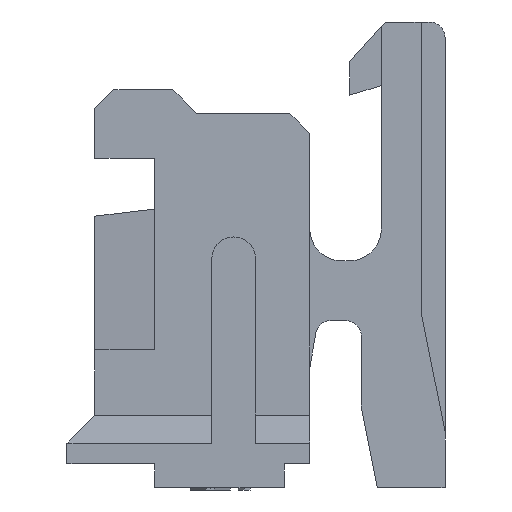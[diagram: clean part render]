
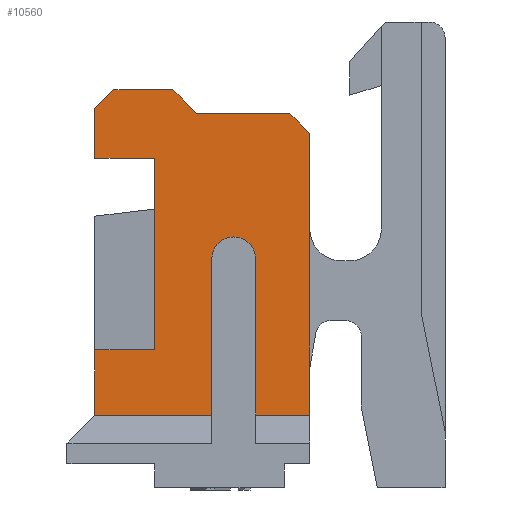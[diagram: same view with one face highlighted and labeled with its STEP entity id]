
A CAD part, front view. The second image highlights one B-rep face of the part: STEP entity #10560.
In plain terms, the highlighted planar face has unit normal (0, -1, 0).
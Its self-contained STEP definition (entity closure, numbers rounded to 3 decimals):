
#110 = ORIENTED_EDGE ( 'NONE', *, *, #1702, .F. ) ;
#137 = EDGE_CURVE ( 'NONE', #21532, #22179, #17539, .T. ) ;
#509 = CARTESIAN_POINT ( 'NONE',  ( -2.7, -6.2, 3.84 ) ) ;
#1005 = AXIS2_PLACEMENT_3D ( 'NONE', #14895, #3995, #1975 ) ;
#1314 = EDGE_CURVE ( 'NONE', #7315, #21532, #19347, .T. ) ;
#1591 = EDGE_CURVE ( 'NONE', #2739, #21593, #16840, .T. ) ;
#1702 = EDGE_CURVE ( 'NONE', #21648, #16074, #22790, .T. ) ;
#1773 = CARTESIAN_POINT ( 'NONE',  ( -2.7, -6.2, 0.61 ) ) ;
#1828 = LINE ( 'NONE', #16444, #2489 ) ;
#1975 = DIRECTION ( 'NONE',  ( -1., 0., 0. ) ) ;
#2156 = EDGE_CURVE ( 'NONE', #16074, #21070, #3383, .T. ) ;
#2468 = CARTESIAN_POINT ( 'NONE',  ( 0., -6.2, 4.15 ) ) ;
#2489 = VECTOR ( 'NONE', #21564, 1000. ) ;
#2739 = VERTEX_POINT ( 'NONE', #10821 ) ;
#3324 = VERTEX_POINT ( 'NONE', #11744 ) ;
#3383 = LINE ( 'NONE', #6734, #19828 ) ;
#3987 = CARTESIAN_POINT ( 'NONE',  ( -0.68, -6.2, 0.61 ) ) ;
#3995 = DIRECTION ( 'NONE',  ( 0., 1., 0. ) ) ;
#4192 = LINE ( 'NONE', #11497, #17151 ) ;
#4257 = DIRECTION ( 'NONE',  ( -1., 0., 0. ) ) ;
#4448 = CARTESIAN_POINT ( 'NONE',  ( -1.72, -6.2, 4.7 ) ) ;
#4941 = EDGE_CURVE ( 'NONE', #21070, #15398, #16064, .T. ) ;
#5272 = EDGE_CURVE ( 'NONE', #3324, #2739, #21166, .T. ) ;
#5392 = ORIENTED_EDGE ( 'NONE', *, *, #17033, .F. ) ;
#5718 = DIRECTION ( 'NONE',  ( 1., 0., 0. ) ) ;
#5856 = ORIENTED_EDGE ( 'NONE', *, *, #17828, .T. ) ;
#6184 = CARTESIAN_POINT ( 'NONE',  ( -0.25, -6.2, 4.4 ) ) ;
#6731 = CARTESIAN_POINT ( 'NONE',  ( 0., -6.2, 0.61 ) ) ;
#6734 = CARTESIAN_POINT ( 'NONE',  ( 0., -6.2, 4.15 ) ) ;
#6797 = CARTESIAN_POINT ( 'NONE',  ( -0.68, -6.2, 2.575 ) ) ;
#7110 = DIRECTION ( 'NONE',  ( 0.707, 0., -0.707 ) ) ;
#7128 = CARTESIAN_POINT ( 'NONE',  ( -2.7, -6.2, 3.84 ) ) ;
#7143 = VERTEX_POINT ( 'NONE', #22110 ) ;
#7306 = EDGE_CURVE ( 'NONE', #22183, #15398, #10033, .T. ) ;
#7315 = VERTEX_POINT ( 'NONE', #9056 ) ;
#7501 = DIRECTION ( 'NONE',  ( -1., 0., 0. ) ) ;
#7618 = EDGE_CURVE ( 'NONE', #21593, #7143, #12388, .T. ) ;
#7735 = CARTESIAN_POINT ( 'NONE',  ( -1.95, -6.2, 3.84 ) ) ;
#7966 = CARTESIAN_POINT ( 'NONE',  ( -1.95, -6.2, 1.43 ) ) ;
#7996 = ORIENTED_EDGE ( 'NONE', *, *, #5272, .F. ) ;
#8238 = DIRECTION ( 'NONE',  ( 0., 0., -1. ) ) ;
#8316 = DIRECTION ( 'NONE',  ( 0.707, 0., -0.707 ) ) ;
#8434 = CARTESIAN_POINT ( 'NONE',  ( -1.72, -6.2, 4.7 ) ) ;
#8585 = ORIENTED_EDGE ( 'NONE', *, *, #7306, .T. ) ;
#9021 = DIRECTION ( 'NONE',  ( -1., 0., 0. ) ) ;
#9024 = CIRCLE ( 'NONE', #1005, 0.275 ) ;
#9056 = CARTESIAN_POINT ( 'NONE',  ( -2.46, -6.2, 4.7 ) ) ;
#9197 = CARTESIAN_POINT ( 'NONE',  ( 0., -6.2, 0. ) ) ;
#10033 = LINE ( 'NONE', #6797, #22550 ) ;
#10187 = VECTOR ( 'NONE', #7501, 1000. ) ;
#10560 = ADVANCED_FACE ( 'NONE', ( #14586 ), #21978, .T. ) ;
#10635 = DIRECTION ( 'NONE',  ( 0., -1., 0. ) ) ;
#10821 = CARTESIAN_POINT ( 'NONE',  ( -1.95, -6.2, 3.84 ) ) ;
#10898 = CARTESIAN_POINT ( 'NONE',  ( -1.23, -6.2, 2.575 ) ) ;
#10976 = CARTESIAN_POINT ( 'NONE',  ( -1.42, -6.2, 4.4 ) ) ;
#11349 = EDGE_CURVE ( 'NONE', #17429, #12803, #4192, .T. ) ;
#11497 = CARTESIAN_POINT ( 'NONE',  ( -1.23, -6.2, 0.61 ) ) ;
#11744 = CARTESIAN_POINT ( 'NONE',  ( -1.95, -6.2, 1.43 ) ) ;
#11948 = ORIENTED_EDGE ( 'NONE', *, *, #11349, .T. ) ;
#12105 = VECTOR ( 'NONE', #8316, 1000. ) ;
#12351 = DIRECTION ( 'NONE',  ( 0., 0., -1. ) ) ;
#12388 = LINE ( 'NONE', #7128, #20257 ) ;
#12503 = ORIENTED_EDGE ( 'NONE', *, *, #2156, .F. ) ;
#12803 = VERTEX_POINT ( 'NONE', #10898 ) ;
#12846 = CARTESIAN_POINT ( 'NONE',  ( -1.23, -6.2, 0.61 ) ) ;
#13251 = CARTESIAN_POINT ( 'NONE',  ( -1.23, -6.2, 0.61 ) ) ;
#13496 = CARTESIAN_POINT ( 'NONE',  ( -0.68, -6.2, 2.575 ) ) ;
#13841 = ORIENTED_EDGE ( 'NONE', *, *, #137, .F. ) ;
#13865 = DIRECTION ( 'NONE',  ( 1., 0., 0. ) ) ;
#14510 = VECTOR ( 'NONE', #21862, 1000. ) ;
#14586 = FACE_OUTER_BOUND ( 'NONE', #20926, .T. ) ;
#14841 = ORIENTED_EDGE ( 'NONE', *, *, #23075, .F. ) ;
#14895 = CARTESIAN_POINT ( 'NONE',  ( -0.955, -6.2, 2.575 ) ) ;
#15154 = VECTOR ( 'NONE', #13865, 1000. ) ;
#15262 = CARTESIAN_POINT ( 'NONE',  ( -2.7, -6.2, 1.43 ) ) ;
#15305 = EDGE_CURVE ( 'NONE', #17429, #17356, #16213, .T. ) ;
#15313 = VECTOR ( 'NONE', #9021, 1000. ) ;
#15398 = VERTEX_POINT ( 'NONE', #3987 ) ;
#15590 = VECTOR ( 'NONE', #23350, 1000. ) ;
#15652 = CARTESIAN_POINT ( 'NONE',  ( -2.46, -6.2, 4.7 ) ) ;
#15660 = VECTOR ( 'NONE', #5718, 1000. ) ;
#15923 = CARTESIAN_POINT ( 'NONE',  ( -1.95, -6.2, 1.43 ) ) ;
#15937 = CARTESIAN_POINT ( 'NONE',  ( -0.25, -6.2, 4.4 ) ) ;
#16064 = LINE ( 'NONE', #6731, #15590 ) ;
#16074 = VERTEX_POINT ( 'NONE', #2468 ) ;
#16213 = LINE ( 'NONE', #12846, #15313 ) ;
#16444 = CARTESIAN_POINT ( 'NONE',  ( -2.7, -6.2, 4.46 ) ) ;
#16474 = ORIENTED_EDGE ( 'NONE', *, *, #1591, .F. ) ;
#16840 = LINE ( 'NONE', #7735, #10187 ) ;
#17033 = EDGE_CURVE ( 'NONE', #7143, #7315, #1828, .T. ) ;
#17083 = CARTESIAN_POINT ( 'NONE',  ( -1.42, -6.2, 4.4 ) ) ;
#17151 = VECTOR ( 'NONE', #17359, 1000. ) ;
#17356 = VERTEX_POINT ( 'NONE', #17714 ) ;
#17359 = DIRECTION ( 'NONE',  ( 0., 0., 1. ) ) ;
#17429 = VERTEX_POINT ( 'NONE', #13251 ) ;
#17539 = LINE ( 'NONE', #8434, #23179 ) ;
#17624 = ORIENTED_EDGE ( 'NONE', *, *, #20972, .T. ) ;
#17683 = ORIENTED_EDGE ( 'NONE', *, *, #4941, .F. ) ;
#17714 = CARTESIAN_POINT ( 'NONE',  ( -2.7, -6.2, 0.61 ) ) ;
#17828 = EDGE_CURVE ( 'NONE', #3324, #17844, #18728, .T. ) ;
#17844 = VERTEX_POINT ( 'NONE', #15262 ) ;
#17936 = LINE ( 'NONE', #10976, #15660 ) ;
#18406 = LINE ( 'NONE', #1773, #14510 ) ;
#18480 = CARTESIAN_POINT ( 'NONE',  ( 0., -6.2, 0.61 ) ) ;
#18728 = LINE ( 'NONE', #7966, #21976 ) ;
#19347 = LINE ( 'NONE', #15652, #15154 ) ;
#19443 = ORIENTED_EDGE ( 'NONE', *, *, #7618, .F. ) ;
#19828 = VECTOR ( 'NONE', #12351, 1000. ) ;
#20033 = ORIENTED_EDGE ( 'NONE', *, *, #1314, .F. ) ;
#20257 = VECTOR ( 'NONE', #21475, 1000. ) ;
#20926 = EDGE_LOOP ( 'NONE', ( #11948, #17624, #8585, #17683, #12503, #110, #14841, #13841, #20033, #5392, #19443, #16474, #7996, #5856, #21808, #22298 ) ) ;
#20972 = EDGE_CURVE ( 'NONE', #12803, #22183, #9024, .T. ) ;
#21070 = VERTEX_POINT ( 'NONE', #18480 ) ;
#21166 = LINE ( 'NONE', #15923, #22082 ) ;
#21475 = DIRECTION ( 'NONE',  ( 0., 0., 1. ) ) ;
#21532 = VERTEX_POINT ( 'NONE', #4448 ) ;
#21564 = DIRECTION ( 'NONE',  ( 0.707, 0., 0.707 ) ) ;
#21593 = VERTEX_POINT ( 'NONE', #509 ) ;
#21648 = VERTEX_POINT ( 'NONE', #15937 ) ;
#21743 = DIRECTION ( 'NONE',  ( 0., 0., -1. ) ) ;
#21808 = ORIENTED_EDGE ( 'NONE', *, *, #23595, .F. ) ;
#21862 = DIRECTION ( 'NONE',  ( 0., 0., 1. ) ) ;
#21976 = VECTOR ( 'NONE', #4257, 1000. ) ;
#21978 = PLANE ( 'NONE',  #23263 ) ;
#22082 = VECTOR ( 'NONE', #22971, 1000. ) ;
#22110 = CARTESIAN_POINT ( 'NONE',  ( -2.7, -6.2, 4.46 ) ) ;
#22179 = VERTEX_POINT ( 'NONE', #17083 ) ;
#22183 = VERTEX_POINT ( 'NONE', #13496 ) ;
#22298 = ORIENTED_EDGE ( 'NONE', *, *, #15305, .F. ) ;
#22550 = VECTOR ( 'NONE', #8238, 1000. ) ;
#22790 = LINE ( 'NONE', #6184, #12105 ) ;
#22971 = DIRECTION ( 'NONE',  ( 0., 0., 1. ) ) ;
#23075 = EDGE_CURVE ( 'NONE', #22179, #21648, #17936, .T. ) ;
#23179 = VECTOR ( 'NONE', #7110, 1000. ) ;
#23263 = AXIS2_PLACEMENT_3D ( 'NONE', #9197, #10635, #21743 ) ;
#23350 = DIRECTION ( 'NONE',  ( -1., 0., 0. ) ) ;
#23595 = EDGE_CURVE ( 'NONE', #17356, #17844, #18406, .T. ) ;
